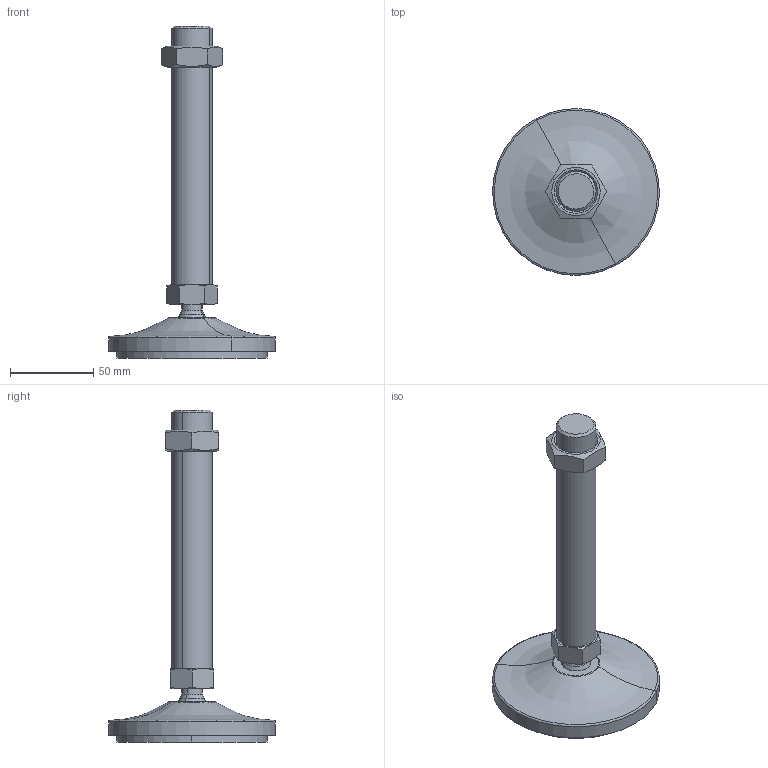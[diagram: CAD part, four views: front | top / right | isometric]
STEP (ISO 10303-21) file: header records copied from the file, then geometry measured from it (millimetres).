
FILE_DESCRIPTION(('CATIA V5 STEP Exchange'),'2;1');
FILE_NAME('C:\Users\ALI OZGUN\Desktop\alhan\saplama2\560102421AV.stp','2017-09-21T10:31:27+00:00',('none'),('none'),'CATIA Version 5 Release 21 GA (IN-10)','CATIA V5 STEP AP203','none');
FILE_SCHEMA(('CONFIG_CONTROL_DESIGN'));
Length unit declared in the file: millimetre
Products named in the file (1): 560102421AV
Bounding box: 99.97 x 99.97 x 199 mm (x, y, z)
Volume: 203976.9 mm3; surface area: 53489.2 mm2
Topology: 4 solids, 4 shells, 76 faces, 166 edges, 99 vertices
Faces by surface type: cone 28, plane 22, cylinder 16, torus 4, revolution 4, sphere 2
Entity records: 2200 total; most frequent: CARTESIAN_POINT 736, ORIENTED_EDGE 328, DIRECTION 203, EDGE_CURVE 164, AXIS2_PLACEMENT_3D 112, VERTEX_POINT 99, EDGE_LOOP 83, ADVANCED_FACE 76
